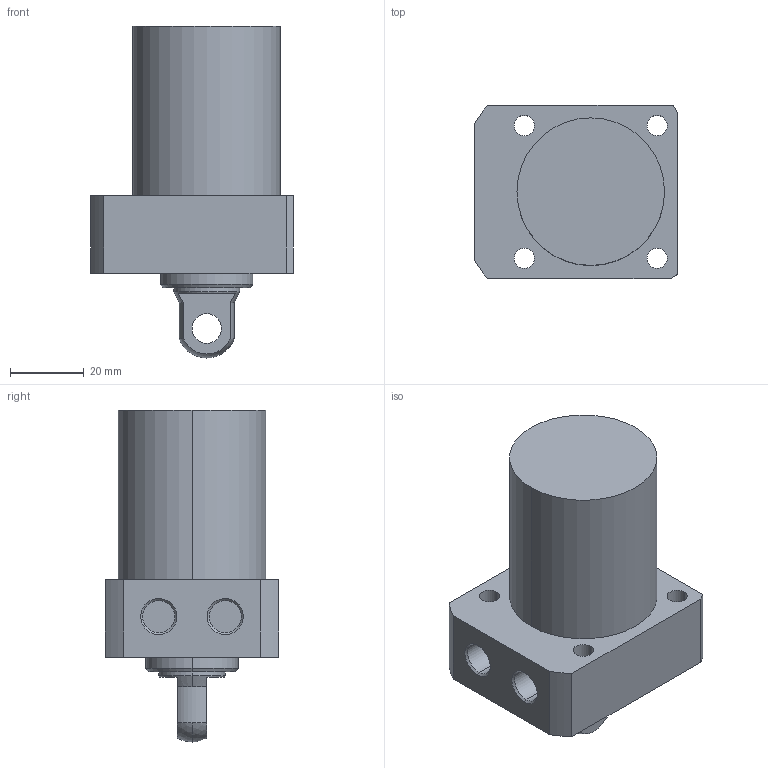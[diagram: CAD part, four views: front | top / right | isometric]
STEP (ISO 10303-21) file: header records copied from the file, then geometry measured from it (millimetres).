
FILE_DESCRIPTION (( 'STEP AP203' ), '1' );
FILE_NAME ('CLL-R040-CP-035.STEP', '2017-05-10T11:30:50', ( '' ), ( '' ), 'SwSTEP 2.0', 'SolidWorks 2015', '' );
FILE_SCHEMA (( 'CONFIG_CONTROL_DESIGN' ));
Length unit declared in the file: millimetre
Products named in the file (1): CLL-R040-CP-035
Bounding box: 55 x 47 x 90 mm (x, y, z)
Volume: 111495.3 mm3; surface area: 18277.8 mm2
Topology: 1 solids, 1 shells, 57 faces, 135 edges, 87 vertices
Faces by surface type: cylinder 29, plane 18, cone 8, sphere 2
Entity records: 1770 total; most frequent: DIRECTION 319, CARTESIAN_POINT 292, ORIENTED_EDGE 270, EDGE_CURVE 135, AXIS2_PLACEMENT_3D 130, VERTEX_POINT 87, EDGE_LOOP 74, CIRCLE 72
